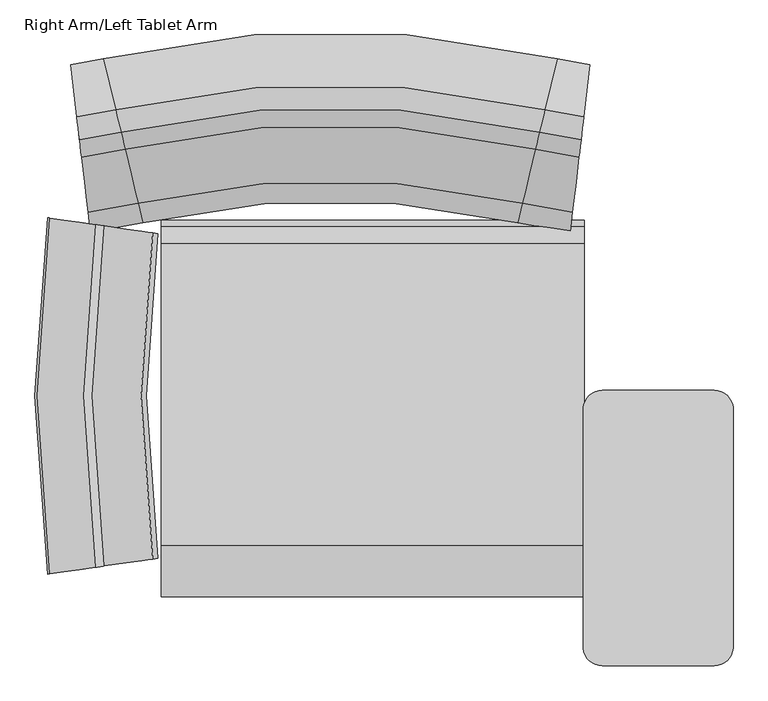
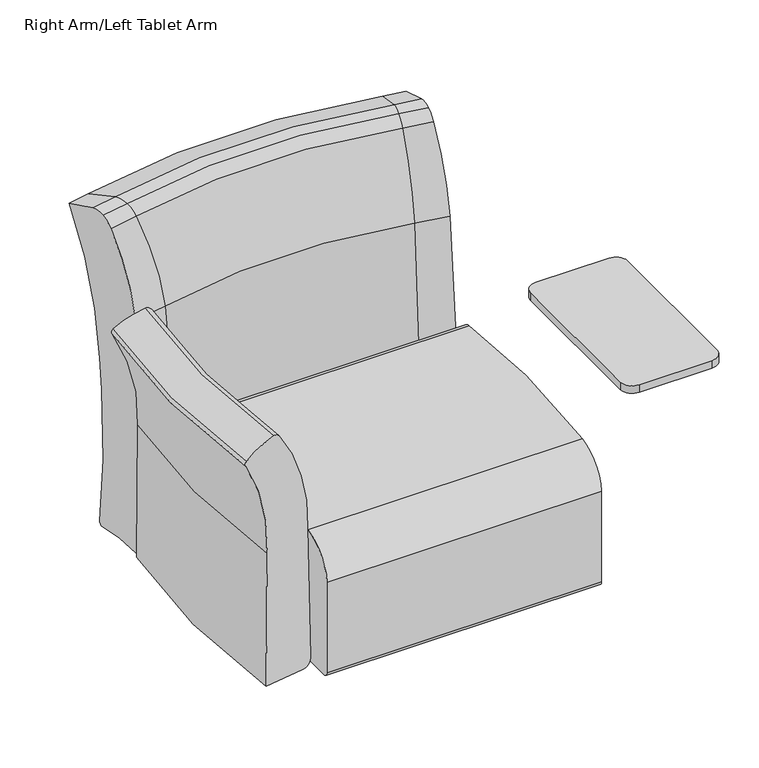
"""IFC4 building model written with IfcOpenShell, lengths in millimetres: furniture geometry, Steelcase Turnstone - Jenny - Seating - Lounge Chair : Right Arm/Left Tablet Arm."""

from ifc_helpers import new_model, si_unit, point, frame, frame_2d, origin, place, context, project, spatial, polyline, circle_curve, ellipse_curve, trimmed, segment, composite_curve, outline, extrude, source, transform, mapped, element, save
from ifc_brep_helpers import plane_surface, cylinder_surface, revolved_surface, advanced_brep


def right_arm_left_tablet_arm_c27d1c7f(model_context):
    return source(origin(), model_context, "Body", "SolidModel", [
        advanced_brep(
        [(598.9170505, 297.2446472, 612.9965223), (437.5359646, 297.2446472, 612.9965223), (410.2823568, 271.9208046, 612.9965223), (410.2823568, -74.3072853, 612.9965223), (437.5359646, -99.6305466, 612.9965223), (598.9170505, -99.6305466, 612.9965223), (626.1706583, -74.3072853, 612.9965223), (626.1763138, 271.8444534, 612.9965223), (598.9170505, 297.2440659, 595.5042034), (626.1706583, 271.9208046, 595.5042034), (626.1706583, -74.3072853, 595.5042034), (598.9170505, -99.6305466, 595.5042034), (437.5359646, -99.6305466, 595.5042034), (410.2823568, -74.3072853, 595.5042034), (410.2767014, 271.8444534, 595.5042034), (437.5359646, 297.2440659, 595.5042034)],
        [
            (0, 1),
            (1, 2, circle_curve(frame((437.5359646, 269.9168846, 612.9965223), z_axis=(0.0, 0.0, 1.0), x_axis=(0.0, 1.0, 0.0)), 27.3271812)),
            (2, 3, circle_curve(frame((2764.6629546, 98.8070503, 612.9965223), z_axis=(0.0, 0.0, 1.0), x_axis=(0.0, 1.0, 0.0)), 2360.736447)),
            (3, 4, circle_curve(frame((437.5359646, -72.3033653, 612.9965223), z_axis=(0.0, 0.0, 1.0), x_axis=(0.0, 1.0, 0.0)), 27.3271812)),
            (4, 5),
            (5, 6, circle_curve(frame((598.9170505, -72.3033653, 612.9965223), z_axis=(0.0, 0.0, 1.0), x_axis=(0.0, 1.0, 0.0)), 27.3271812)),
            (6, 7, circle_curve(frame((-1728.2099394, 98.8070503, 612.9965223), z_axis=(0.0, 0.0, 1.0), x_axis=(0.0, 1.0, 0.0)), 2360.736447)),
            (7, 0, circle_curve(frame((598.9170505, 269.9168846, 612.9965223), z_axis=(0.0, 0.0, 1.0), x_axis=(0.0, 1.0, 0.0)), 27.3271812)),
            (8, 9, circle_curve(frame((598.9170505, 269.9168846, 595.5042034), z_axis=(0.0, 0.0, -1.0), x_axis=(0.0, 1.0, 0.0)), 27.3271812)),
            (9, 10, circle_curve(frame((-1728.2099394, 98.8070503, 595.5042034), z_axis=(0.0, 0.0, -1.0), x_axis=(0.0, 1.0, 0.0)), 2360.736447)),
            (10, 11, circle_curve(frame((598.9170505, -72.3033653, 595.5042034), z_axis=(0.0, 0.0, -1.0), x_axis=(0.0, 1.0, 0.0)), 27.3271812)),
            (11, 12),
            (12, 13, circle_curve(frame((437.5359646, -72.3033653, 595.5042034), z_axis=(0.0, 0.0, -1.0), x_axis=(0.0, 1.0, 0.0)), 27.3271812)),
            (13, 14, circle_curve(frame((2764.6629546, 98.8070503, 595.5042034), z_axis=(0.0, 0.0, -1.0), x_axis=(0.0, 1.0, 0.0)), 2360.736447)),
            (14, 15, circle_curve(frame((437.5359646, 269.9168846, 595.5042034), z_axis=(0.0, 0.0, -1.0), x_axis=(0.0, 1.0, 0.0)), 27.3271812)),
            (15, 8),
            (0, 8),
            (15, 1),
            (14, 2),
            (13, 3),
            (12, 4),
            (11, 5),
            (10, 6),
            (9, 7),
        ],
        [
            plane_surface(frame((437.5359646, 297.2446472, 612.9965223), z_axis=(0.0, 0.0, 1.0), x_axis=(-1.0, 0.0, 0.0))),
            plane_surface(frame((437.5359646, 297.2446472, 595.5042034), z_axis=(0.0, 0.0, -1.0), x_axis=(1.0, 0.0, 0.0))),
            plane_surface(frame((598.9170505, 297.2446472, 612.9965223), z_axis=(0.0, 1.0, 0.0), x_axis=(0.0, 0.0, -1.0))),
            cylinder_surface(frame((437.5359646, 269.9168846, 595.5042034), z_axis=(0.0, 0.0, 1.0), x_axis=(0.0, 1.0, 0.0)), 27.3271812),
            cylinder_surface(frame((2764.6629546, 98.8070503, 595.5042034), z_axis=(0.0, 0.0, 1.0), x_axis=(0.0, 1.0, 0.0)), 2360.736447),
            cylinder_surface(frame((437.5359646, -72.3033653, 595.5042034), z_axis=(0.0, 0.0, 1.0), x_axis=(0.0, 1.0, 0.0)), 27.3271812),
            plane_surface(frame((437.5359646, -99.6305466, 612.9965223), z_axis=(0.0, -1.0, 0.0), x_axis=(0.0, 0.0, -1.0))),
            cylinder_surface(frame((598.9170505, -72.3033653, 595.5042034), z_axis=(0.0, 0.0, 1.0), x_axis=(0.0, 1.0, 0.0)), 27.3271812),
            cylinder_surface(frame((-1728.2099394, 98.8070503, 595.5042034), z_axis=(0.0, 0.0, 1.0), x_axis=(0.0, 1.0, 0.0)), 2360.736447),
            cylinder_surface(frame((598.9170505, 269.9168846, 595.5042034), z_axis=(0.0, 0.0, 1.0), x_axis=(0.0, 1.0, 0.0)), 27.3271812),
        ],
        [
            (0, [[1, 2, 3, 4, 5, 6, 7, 8]]),
            (1, [[9, 10, 11, 12, 13, 14, 15, 16]]),
            (2, [[-1, 17, -16, 18]]),
            (3, [[-2, -18, -15, 19]]),
            (4, [[-3, -19, -14, 20]]),
            (5, [[-4, -20, -13, 21]]),
            (6, [[-5, -21, -12, 22]]),
            (7, [[-6, -22, -11, 23]]),
            (8, [[-7, -23, -10, 24]]),
            (9, [[-8, -24, -9, -17]]),
        ],
    ),
        extrude(outline(polyline([(418.7902751, 106.7260437), (418.7902751, 233.7264313), (532.2244904, 233.7264313), (532.2244904, 106.7260437), (418.7902751, 106.7260437)])), frame((0.0, 0.0, 592.311266), z_axis=(0.0, 0.0, 1.0), x_axis=(1.0, 0.0, 0.0)), (0.0, 0.0, 1.0), 3.1929374),
        advanced_brep(
        [(-292.7898126, 42.3528445, 662.4789574), (-358.2713356, 32.9674199, 631.6323761), (-360.5690311, 32.6380926, 620.5062548), (-308.2034318, 40.1436204, 393.5179242), (-310.4441561, 39.8224588, 83.0261095), (-223.20915, 52.3257962, 83.0261095), (-202.848241, 55.2441122, 105.3934367), (-210.1779101, 54.1935554, 412.3486316), (-279.7619287, 44.2201227, 657.247673), (-292.7898126, 536.0945997, 662.4789574), (-279.7619287, 534.2273214, 657.247673), (-210.1779101, 524.2538887, 412.3486316), (-202.848241, 523.203332, 105.3934367), (-223.20915, 526.121648, 83.0261095), (-310.4441561, 538.6249854, 83.0261095), (-308.2034318, 538.3038238, 393.5179242), (-360.5690311, 545.8093515, 620.5062548), (-358.2713356, 545.4800243, 631.6323761)],
        [
            (0, 1, circle_curve(frame((-256.1943064, 47.5980549, 496.8440116), z_axis=(0.1418794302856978, -0.9898839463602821, 0.0), x_axis=(-0.9898839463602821, -0.1418794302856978, 0.0)), 169.710573)),
            (1, 2, circle_curve(frame((-353.0400293, 33.7172196, 624.7246592), z_axis=(0.1418794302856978, -0.9898839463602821, 0.0), x_axis=(-0.9898839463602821, -0.1418794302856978, 0.0)), 8.6974317)),
            (2, 3, circle_curve(frame((-728.9183733, -20.157182, 414.1247817), z_axis=(-0.1418794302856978, 0.9898839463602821, 0.0), x_axis=(-0.9898839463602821, -0.1418794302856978, 0.0)), 425.5136794)),
            (3, 4, circle_curve(frame((3422.4667903, 574.8581873, 210.7875713), z_axis=(0.1418794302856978, -0.9898839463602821, 0.0), x_axis=(-0.9898839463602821, -0.1418794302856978, 0.0)), 3773.2228077)),
            (4, 5),
            (5, 6, circle_curve(frame((-223.20915, 52.3257962, 103.6673891), z_axis=(0.1418794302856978, -0.9898839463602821, 0.0), x_axis=(-0.9898839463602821, -0.1418794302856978, 0.0)), 20.6412796)),
            (6, 7, circle_curve(frame((2339.505101, 419.6379839, 320.9153954), z_axis=(-0.1418794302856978, 0.9898839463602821, 0.0), x_axis=(-0.9898839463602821, -0.1418794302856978, 0.0)), 2577.3616595)),
            (7, 8, circle_curve(frame((-616.9474144, -4.1084564, 426.9356418), z_axis=(0.1418794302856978, -0.9898839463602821, 0.0), x_axis=(-0.9898839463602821, -0.1418794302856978, 0.0)), 411.1852807)),
            (8, 0, circle_curve(frame((-290.0772968, 42.7416276, 650.2018378), z_axis=(0.1418794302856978, -0.9898839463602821, 0.0), x_axis=(-0.9898839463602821, -0.1418794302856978, 0.0)), 12.5792115)),
            (9, 10, circle_curve(frame((-290.0772968, 535.7058165, 650.2018378), z_axis=(0.1418794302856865, 0.9898839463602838, 0.0), x_axis=(-0.9898839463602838, 0.1418794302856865, 0.0)), 12.5792115)),
            (10, 11, circle_curve(frame((-616.9474144, 582.5559005, 426.9356418), z_axis=(0.1418794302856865, 0.9898839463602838, 0.0), x_axis=(-0.9898839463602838, 0.1418794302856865, 0.0)), 411.1852807)),
            (11, 12, circle_curve(frame((2339.505101, 158.8094603, 320.9153954), z_axis=(-0.1418794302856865, -0.9898839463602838, 0.0), x_axis=(-0.9898839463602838, 0.1418794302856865, 0.0)), 2577.3616595)),
            (12, 13, circle_curve(frame((-223.20915, 526.121648, 103.6673891), z_axis=(0.1418794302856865, 0.9898839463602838, 0.0), x_axis=(-0.9898839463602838, 0.1418794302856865, 0.0)), 20.6412796)),
            (13, 14),
            (14, 15, circle_curve(frame((3422.4667903, 3.5892569, 210.7875713), z_axis=(0.1418794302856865, 0.9898839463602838, 0.0), x_axis=(-0.9898839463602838, 0.1418794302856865, 0.0)), 3773.2228077)),
            (15, 16, circle_curve(frame((-728.9183733, 598.6046262, 414.1247817), z_axis=(-0.1418794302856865, -0.9898839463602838, 0.0), x_axis=(-0.9898839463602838, 0.1418794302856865, 0.0)), 425.5136794)),
            (16, 17, circle_curve(frame((-353.0400293, 544.7302245, 624.7246592), z_axis=(0.1418794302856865, 0.9898839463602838, 0.0), x_axis=(-0.9898839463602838, 0.1418794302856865, 0.0)), 8.6974317)),
            (17, 9, circle_curve(frame((-256.1943064, 530.8493893, 496.8440116), z_axis=(0.1418794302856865, 0.9898839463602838, 0.0), x_axis=(-0.9898839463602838, 0.1418794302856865, 0.0)), 169.710573)),
            (17, 1, circle_curve(frame((1429.6129209, 289.2237221, 631.6323761), z_axis=(0.0, 0.0, 1.0), x_axis=(-0.9898839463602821, -0.1418794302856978, 0.0)), 1806.1554216)),
            (0, 9, circle_curve(frame((1429.6129209, 289.2237221, 662.4789574), z_axis=(0.0, 0.0, -1.0), x_axis=(-0.9898839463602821, -0.1418794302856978, 0.0)), 1740.0047145)),
            (16, 2, circle_curve(frame((1429.6129209, 289.2237221, 620.5062548), z_axis=(0.0, 0.0, 1.0), x_axis=(-0.9898839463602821, -0.1418794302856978, 0.0)), 1808.4765982)),
            (15, 3, circle_curve(frame((1429.6129209, 289.2237221, 393.5179242), z_axis=(0.0, 0.0, 1.0), x_axis=(-0.9898839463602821, -0.1418794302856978, 0.0)), 1755.5758521)),
            (14, 4, circle_curve(frame((1429.6129209, 289.2237221, 83.0261095), z_axis=(0.0, 0.0, 1.0), x_axis=(-0.9898839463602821, -0.1418794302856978, 0.0)), 1757.8394754)),
            (13, 5, circle_curve(frame((1429.6129209, 289.2237221, 83.0261095), z_axis=(0.0, 0.0, 1.0), x_axis=(-0.9898839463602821, -0.1418794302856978, 0.0)), 1669.7129769)),
            (12, 6, circle_curve(frame((1429.6129209, 289.2237221, 105.3934367), z_axis=(0.0, 0.0, 1.0), x_axis=(-0.9898839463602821, -0.1418794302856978, 0.0)), 1649.1439909)),
            (11, 7, circle_curve(frame((1429.6129209, 289.2237221, 412.3486316), z_axis=(0.0, 0.0, 1.0), x_axis=(-0.9898839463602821, -0.1418794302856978, 0.0)), 1656.5485651)),
            (10, 8, circle_curve(frame((1429.6129209, 289.2237221, 657.247673), z_axis=(0.0, 0.0, 1.0), x_axis=(-0.9898839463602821, -0.1418794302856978, 0.0)), 1726.8436929)),
        ],
        [
            plane_surface(frame((-276.073924, 44.7487221, 0.0), z_axis=(0.1418794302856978, -0.9898839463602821, 0.0), x_axis=(0.0, 0.0, 1.0))),
            plane_surface(frame((-276.073924, 533.6987221, 0.0), z_axis=(0.1418794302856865, 0.9898839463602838, 0.0), x_axis=(0.0, 0.0, 1.0))),
            revolved_surface(trimmed(ellipse_curve(frame((-256.1943064, 47.5980549, 496.8440116), z_axis=(0.1418794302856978, -0.9898839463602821, 0.0), x_axis=(-0.9898839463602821, -0.1418794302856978, 0.0)), 169.710573, 169.710573), [point((-292.7898126, 42.3528445, 662.4789574))], [point((-358.2713356, 32.9674199, 631.6323761))], True, "CARTESIAN"), (1429.6129209, 289.2237221, 0.0), (0.0, 0.0, -1.0)),
            revolved_surface(trimmed(ellipse_curve(frame((-353.0400293, 33.7172196, 624.7246592), z_axis=(0.1418794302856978, -0.9898839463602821, 0.0), x_axis=(-0.9898839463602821, -0.1418794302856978, 0.0)), 8.6974317, 8.6974317), [point((-358.2713356, 32.9674199, 631.6323761))], [point((-360.5690311, 32.6380926, 620.5062548))], True, "CARTESIAN"), (1429.6129209, 289.2237221, 0.0), (0.0, 0.0, -1.0)),
            revolved_surface(trimmed(ellipse_curve(frame((-728.9183733, -20.157182, 414.1247817), z_axis=(-0.1418794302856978, 0.9898839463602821, 0.0), x_axis=(-0.9898839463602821, -0.1418794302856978, 0.0)), 425.5136794, 425.5136794), [point((-360.5690311, 32.6380926, 620.5062548))], [point((-308.2034318, 40.1436204, 393.5179242))], True, "CARTESIAN"), (1429.6129209, 289.2237221, 0.0), (0.0, 0.0, -1.0)),
            revolved_surface(trimmed(ellipse_curve(frame((3422.4667903, 574.8581873, 210.7875713), z_axis=(0.1418794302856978, -0.9898839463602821, 0.0), x_axis=(-0.9898839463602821, -0.1418794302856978, 0.0)), 3773.2228077, 3773.2228077), [point((-308.2034318, 40.1436204, 393.5179242))], [point((-310.4441561, 39.8224588, 83.0261095))], True, "CARTESIAN"), (1429.6129209, 289.2237221, 0.0), (0.0, 0.0, -1.0)),
            plane_surface(frame((1429.6129209, 289.2237221, 83.0261095), z_axis=(0.0, 0.0, -1.0), x_axis=(-0.9898839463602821, -0.1418794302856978, 0.0))),
            revolved_surface(trimmed(ellipse_curve(frame((-223.20915, 52.3257962, 103.6673891), z_axis=(0.1418794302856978, -0.9898839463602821, 0.0), x_axis=(-0.9898839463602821, -0.1418794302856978, 0.0)), 20.6412796, 20.6412796), [point((-223.20915, 52.3257962, 83.0261095))], [point((-202.848241, 55.2441122, 105.3934367))], True, "CARTESIAN"), (1429.6129209, 289.2237221, 0.0), (0.0, 0.0, -1.0)),
            revolved_surface(trimmed(ellipse_curve(frame((2339.505101, 419.6379839, 320.9153954), z_axis=(-0.1418794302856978, 0.9898839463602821, 0.0), x_axis=(-0.9898839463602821, -0.1418794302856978, 0.0)), 2577.3616595, 2577.3616595), [point((-202.848241, 55.2441122, 105.3934367))], [point((-210.1779101, 54.1935554, 412.3486316))], True, "CARTESIAN"), (1429.6129209, 289.2237221, 0.0), (0.0, 0.0, -1.0)),
            revolved_surface(trimmed(ellipse_curve(frame((-616.9474144, -4.1084564, 426.9356418), z_axis=(0.1418794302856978, -0.9898839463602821, 0.0), x_axis=(-0.9898839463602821, -0.1418794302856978, 0.0)), 411.1852807, 411.1852807), [point((-210.1779101, 54.1935554, 412.3486316))], [point((-279.7619287, 44.2201227, 657.247673))], True, "CARTESIAN"), (1429.6129209, 289.2237221, 0.0), (0.0, 0.0, -1.0)),
            revolved_surface(trimmed(ellipse_curve(frame((-290.0772968, 42.7416276, 650.2018378), z_axis=(0.1418794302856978, -0.9898839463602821, 0.0), x_axis=(-0.9898839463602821, -0.1418794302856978, 0.0)), 12.5792115, 12.5792115), [point((-279.7619287, 44.2201227, 657.247673))], [point((-292.7898126, 42.3528445, 662.4789574))], True, "CARTESIAN"), (1429.6129209, 289.2237221, 0.0), (0.0, 0.0, -1.0)),
        ],
        [
            (0, [[1, 2, 3, 4, 5, 6, 7, 8, 9]]),
            (1, [[10, 11, 12, 13, 14, 15, 16, 17, 18]]),
            (2, [[19, -1, 20, -18]]),
            (3, [[21, -2, -19, -17]]),
            (4, [[22, -3, -21, -16]]),
            (5, [[23, -4, -22, -15]]),
            (6, [[24, -5, -23, -14]]),
            (7, [[25, -6, -24, -13]]),
            (8, [[26, -7, -25, -12]]),
            (9, [[27, -8, -26, -11]]),
            (10, [[-20, -9, -27, -10]]),
        ],
    ),
        extrude(outline(composite_curve([segment(trimmed(circle_curve(frame_2d((295.9448235, -1001.9734672)), 1409.8455938), [point((73.6948235, 390.2440215))], [point((509.3958902, 391.6201753))], False, "CARTESIAN"), True, "CONTINUOUS"), segment(trimmed(circle_curve(frame_2d((504.9855283, 362.825509)), 29.1304669), [point((509.3958902, 391.6201753))], [point((533.8942756, 366.4127691))], False, "CARTESIAN"), True, "CONTINUOUS"), segment(trimmed(circle_curve(frame_2d((-629.8512072, 222.0046519)), 1172.6709909), [point((533.8942756, 366.4127691))], [point((536.0042378, 95.7575362))], False, "CARTESIAN"), True, "CONTINUOUS"), segment(trimmed(circle_curve(frame_2d((523.173628, 97.1469259)), 12.9056171), [point((536.0042378, 95.7575362))], [point((523.4804674, 84.244957))], False, "CARTESIAN"), True, "CONTINUOUS"), segment(trimmed(circle_curve(frame_2d((320.8347088, 8605.0850806)), 8523.249481), [point((523.4804674, 84.244957))], [point((12.6556229, 87.4089088))], False, "CARTESIAN"), True, "CONTINUOUS"), segment(trimmed(circle_curve(frame_2d((13.132469, 100.5883266)), 13.1880413), [point((12.6556229, 87.4089088))], [point((0.0, 99.3789084))], False, "CARTESIAN"), True, "CONTINUOUS"), segment(trimmed(circle_curve(frame_2d((1151.5533041, 205.4297595)), 1156.4263034), [point((0.0, 99.3789084))], [point((0.0, 311.4806107))], False, "CARTESIAN"), True, "CONTINUOUS"), segment(trimmed(circle_curve(frame_2d((87.555619, 303.4172862)), 87.9261259), [point((0.0, 311.4806107))], [point((73.6948235, 390.2440215))], False, "CARTESIAN"), True, "CONTINUOUS")], self_intersect=False)), frame((-198.12, 0.0, 0.0), z_axis=(1.0, 0.0, 0.0), x_axis=(0.0, 1.0, 0.0)), (0.0, 0.0, 1.0), 609.6),
        advanced_brep(
        [(-319.566616, 691.4565759, 813.9027777), (-328.4381434, 766.5452606, 782.2939395), (-316.928411, 669.1267858, 474.5451921), (-316.2334589, 663.244705, 404.1661408), (-315.6570167, 658.3656933, 241.4197302), (-316.8946384, 668.8409343, 92.210125), (-315.6754165, 658.5214293, 82.3084573), (-303.2809614, 553.6146536, 81.9987921), (-300.9802803, 534.1416683, 97.0710008), (-303.2942051, 553.7267481, 627.8736036), (-312.6808193, 633.1751322, 797.7221008), (-315.6530638, 658.3322355, 814.4538477), (-281.2467617, 774.979302, 782.2939395), (-263.5601577, 701.4660474, 813.9027777), (-258.300535, 679.604757, 474.5451921), (-256.9150528, 673.8460877, 404.1661408), (-255.7658364, 669.0694421, 241.4197302), (-258.2332047, 679.3249029, 92.210125), (-255.8025189, 669.2219106, 82.3084573), (-231.0924763, 566.5161761, 81.9987921), (-226.5057535, 547.451752, 97.0710008), (-231.1188793, 566.6259188, 627.8736036), (-249.8323794, 644.4074023, 797.7221008), (-255.7579556, 669.0366863, 814.4538477), (372.6867617, 774.979302, 782.2939395), (355.0001577, 701.4660474, 813.9027777), (349.740535, 679.604757, 474.5451921), (348.3550528, 673.8460877, 404.1661408), (347.2058364, 669.0694421, 241.4197302), (349.6732047, 679.3249029, 92.210125), (347.2425189, 669.2219106, 82.3084573), (322.5324763, 566.5161761, 81.9987921), (317.9457535, 547.451752, 97.0710008), (322.5588793, 566.6259188, 627.8736036), (341.2723794, 644.4074023, 797.7221008), (347.1979556, 669.0366863, 814.4538477), (411.006616, 691.4565759, 813.9027777), (407.0930638, 658.3322355, 814.4538477), (404.1208193, 633.1751322, 797.7221008), (394.7342051, 553.7267481, 627.8736036), (392.4202803, 534.1416683, 97.0710008), (394.7209614, 553.6146536, 81.9987921), (407.1154165, 658.5214293, 82.3084573), (408.3346384, 668.8409343, 92.210125), (407.0970167, 658.3656933, 241.4197302), (407.6734589, 663.244705, 404.1661408), (408.368411, 669.1267858, 474.5451921), (419.8781434, 766.5452606, 782.2939395)],
        [
            (0, 1, circle_curve(frame((-295.4061096, 486.9618391, 215.0940543), z_axis=(-0.9930928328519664, -0.11733126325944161, 0.0), x_axis=(-0.11733126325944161, 0.9930928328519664, 0.0)), 633.2248531)),
            (1, 2, circle_curve(frame((-396.2289126, 1340.3269208, 428.618251), z_axis=(0.9930928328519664, 0.11733126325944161, 0.0), x_axis=(-0.11733126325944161, 0.9930928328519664, 0.0)), 677.4270991)),
            (2, 3, circle_curve(frame((-60.3516484, -1502.5411649, 623.1418041), z_axis=(-0.9930928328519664, -0.11733126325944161, 0.0), x_axis=(-0.11733126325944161, 0.9930928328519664, 0.0)), 2191.8152925)),
            (3, 4, circle_curve(frame((-452.3232857, 1815.1101831, 287.7047166), z_axis=(0.9930928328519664, 0.11733126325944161, 0.0), x_axis=(-0.11733126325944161, 0.9930928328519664, 0.0)), 1165.7091335)),
            (4, 5, circle_curve(frame((-599.8381159, 3063.6769889, 337.6638027), z_axis=(0.9930928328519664, 0.11733126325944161, 0.0), x_axis=(-0.11733126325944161, 0.9930928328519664, 0.0)), 2423.9521958)),
            (5, 6, circle_curve(frame((-315.8343466, 659.8666153, 91.290321), z_axis=(-0.9930928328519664, -0.11733126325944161, 0.0), x_axis=(-0.11733126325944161, 0.9930928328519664, 0.0)), 9.0834278)),
            (6, 7, circle_curve(frame((-309.5963018, 607.0677497, -261.2499371), z_axis=(0.9930928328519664, 0.11733126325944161, 0.0), x_axis=(-0.11733126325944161, 0.9930928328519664, 0.0)), 347.443243)),
            (7, 8, circle_curve(frame((-302.9708883, 550.9901919, 98.8517567), z_axis=(-0.9930928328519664, -0.11733126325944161, 0.0), x_axis=(-0.11733126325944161, 0.9930928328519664, 0.0)), 17.0589085)),
            (8, 9, circle_curve(frame((-520.3989152, 2391.3029031, 293.3582769), z_axis=(-0.9930928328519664, -0.11733126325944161, 0.0), x_axis=(-0.11733126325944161, 0.9930928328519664, 0.0)), 1880.3513194)),
            (9, 10, circle_curve(frame((-345.2433635, 908.7847898, 563.2382651), z_axis=(-0.9930928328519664, -0.11733126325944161, 0.0), x_axis=(-0.11733126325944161, 0.9930928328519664, 0.0)), 363.3230957)),
            (10, 11, circle_curve(frame((-317.5105214, 674.0537729, 762.9432742), z_axis=(-0.9930928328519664, -0.11733126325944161, 0.0), x_axis=(-0.11733126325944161, 0.9930928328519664, 0.0)), 53.8883667)),
            (11, 0, circle_curve(frame((-317.5105214, 674.0537729, 762.9432742), z_axis=(-0.9930928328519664, -0.11733126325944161, 0.0), x_axis=(-0.11733126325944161, 0.9930928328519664, 0.0)), 53.8883667)),
            (12, 1, circle_curve(frame((-375.9317332, 1168.5314176, 782.2939395), z_axis=(0.0, 0.0, -1.0), x_axis=(0.1173312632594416, -0.9930928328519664, 0.0)), 404.7820543)),
            (0, 13, circle_curve(frame((-375.9317332, 1168.5314176, 813.9027777), z_axis=(0.0, 0.0, 1.0), x_axis=(0.1173312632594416, -0.9930928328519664, 0.0)), 480.3929964)),
            (13, 12, circle_curve(frame((-215.3928813, 501.2617994, 215.0940543), z_axis=(-0.9722568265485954, -0.23391593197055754, 0.0), x_axis=(-0.23391593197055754, 0.9722568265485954, 0.0)), 633.2248531)),
            (14, 2, circle_curve(frame((-375.9317332, 1168.5314176, 474.5451921), z_axis=(0.0, 0.0, -1.0), x_axis=(0.1173312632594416, -0.9930928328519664, 0.0)), 502.8780948)),
            (12, 14, circle_curve(frame((-416.3969383, 1336.7224922, 428.618251), z_axis=(0.9722568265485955, 0.2339159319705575, 0.0), x_axis=(-0.2339159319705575, 0.9722568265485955, 0.0)), 677.4270991)),
            (15, 3, circle_curve(frame((-375.9317332, 1168.5314176, 404.1661408), z_axis=(0.0, 0.0, -1.0), x_axis=(0.1173312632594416, -0.9930928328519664, 0.0)), 508.8010867)),
            (14, 15, circle_curve(frame((253.220358, -1446.4995912, 623.1418041), z_axis=(-0.9722568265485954, -0.2339159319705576, 0.0), x_axis=(-0.2339159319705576, 0.9722568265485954, 0.0)), 2191.8152925)),
            (16, 4, circle_curve(frame((-375.9317332, 1168.5314176, 241.4197302), z_axis=(0.0, 0.0, -1.0), x_axis=(0.1173312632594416, -0.9930928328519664, 0.0)), 513.714033)),
            (15, 16, circle_curve(frame((-528.2287486, 1801.5443625, 287.7047166), z_axis=(0.9722568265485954, 0.23391593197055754, 0.0), x_axis=(-0.23391593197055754, 0.9722568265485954, 0.0)), 1165.7091335)),
            (17, 5, circle_curve(frame((-375.9317332, 1168.5314176, 92.210125), z_axis=(0.0, 0.0, -1.0), x_axis=(0.1173312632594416, -0.9930928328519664, 0.0)), 503.1659344)),
            (16, 17, circle_curve(frame((-822.3197524, 3023.9150817, 337.6638027), z_axis=(0.9722568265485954, 0.23391593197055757, 0.0), x_axis=(-0.23391593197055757, 0.9722568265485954, 0.0)), 2423.9521958)),
            (18, 6, circle_curve(frame((-375.9317332, 1168.5314176, 82.3084573), z_axis=(0.0, 0.0, -1.0), x_axis=(0.1173312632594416, -0.9930928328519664, 0.0)), 513.5572138)),
            (17, 18, circle_curve(frame((-256.1193678, 670.5388734, 91.290321), z_axis=(-0.9722568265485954, -0.23391593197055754, 0.0), x_axis=(-0.23391593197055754, 0.9722568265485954, 0.0)), 9.0834278)),
            (19, 7, circle_curve(frame((-375.9317332, 1168.5314176, 81.9987921), z_axis=(0.0, 0.0, -1.0), x_axis=(0.1173312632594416, -0.9930928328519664, 0.0)), 619.193638)),
            (18, 19, circle_curve(frame((-243.6829717, 618.8477768, -261.2499371), z_axis=(0.9722568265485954, 0.23391593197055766, 0.0), x_axis=(-0.23391593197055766, 0.9722568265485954, 0.0)), 347.443243)),
            (20, 8, circle_curve(frame((-375.9317332, 1168.5314176, 97.0710008), z_axis=(0.0, 0.0, -1.0), x_axis=(0.1173312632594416, -0.9930928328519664, 0.0)), 638.8020619)),
            (19, 20, circle_curve(frame((-230.474303, 563.9467781, 98.8517567), z_axis=(-0.9722568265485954, -0.23391593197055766, 0.0), x_axis=(-0.23391593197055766, 0.9722568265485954, 0.0)), 17.0589085)),
            (21, 9, circle_curve(frame((-375.9317332, 1168.5314176, 627.8736036), z_axis=(0.0, 0.0, -1.0), x_axis=(0.1173312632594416, -0.9930928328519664, 0.0)), 619.0807637)),
            (20, 21, circle_curve(frame((-663.9468332, 2365.6480262, 293.3582769), z_axis=(-0.9722568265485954, -0.2339159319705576, 0.0), x_axis=(-0.2339159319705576, 0.9722568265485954, 0.0)), 1880.3513194)),
            (22, 10, circle_curve(frame((-375.9317332, 1168.5314176, 797.7221008), z_axis=(0.0, 0.0, -1.0), x_axis=(0.1173312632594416, -0.9930928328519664, 0.0)), 539.0797997)),
            (21, 22, circle_curve(frame((-314.7502681, 914.2345144, 563.2382651), z_axis=(-0.9722568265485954, -0.23391593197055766, 0.0), x_axis=(-0.23391593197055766, 0.9722568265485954, 0.0)), 363.3230957)),
            (23, 11, circle_curve(frame((-375.9317332, 1168.5314176, 814.4538477), z_axis=(0.0, 0.0, -1.0), x_axis=(0.1173312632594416, -0.9930928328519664, 0.0)), 513.7477235)),
            (22, 23, circle_curve(frame((-259.4610516, 684.4283713, 762.9432742), z_axis=(-0.9722568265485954, -0.23391593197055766, 0.0), x_axis=(-0.23391593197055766, 0.9722568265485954, 0.0)), 53.8883667)),
            (23, 13, circle_curve(frame((-259.4610516, 684.4283713, 762.9432742), z_axis=(-0.9722568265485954, -0.23391593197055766, 0.0), x_axis=(-0.23391593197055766, 0.9722568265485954, 0.0)), 53.8883667)),
            (24, 12, circle_curve(frame((45.72, -584.0374329, 782.2939395), z_axis=(0.0, 0.0, 1.0), x_axis=(-0.23391593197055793, 0.9722568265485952, 0.0)), 1397.7960327)),
            (13, 25, circle_curve(frame((45.72, -584.0374329, 813.9027777), z_axis=(0.0, 0.0, -1.0), x_axis=(-0.23391593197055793, 0.9722568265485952, 0.0)), 1322.1850906)),
            (25, 24, circle_curve(frame((306.8328813, 501.2617994, 215.0940543), z_axis=(-0.972256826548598, 0.23391593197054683, 0.0), x_axis=(0.23391593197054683, 0.972256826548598, 0.0)), 633.2248531)),
            (26, 14, circle_curve(frame((45.72, -584.0374329, 474.5451921), z_axis=(0.0, 0.0, 1.0), x_axis=(-0.23391593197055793, 0.9722568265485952, 0.0)), 1299.6999922)),
            (24, 26, circle_curve(frame((507.8369383, 1336.7224922, 428.618251), z_axis=(0.9722568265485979, -0.23391593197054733, 0.0), x_axis=(0.23391593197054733, 0.9722568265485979, 0.0)), 677.4270991)),
            (27, 15, circle_curve(frame((45.72, -584.0374329, 404.1661408), z_axis=(0.0, 0.0, 1.0), x_axis=(-0.23391593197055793, 0.9722568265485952, 0.0)), 1293.7770003)),
            (26, 27, circle_curve(frame((-161.780358, -1446.4995912, 623.1418041), z_axis=(-0.9722568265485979, 0.23391593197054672, 0.0), x_axis=(0.23391593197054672, 0.9722568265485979, 0.0)), 2191.8152925)),
            (28, 16, circle_curve(frame((45.72, -584.0374329, 241.4197302), z_axis=(0.0, 0.0, 1.0), x_axis=(-0.23391593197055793, 0.9722568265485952, 0.0)), 1288.864054)),
            (27, 28, circle_curve(frame((619.6687486, 1801.5443625, 287.7047166), z_axis=(0.972256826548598, -0.23391593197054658, 0.0), x_axis=(0.23391593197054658, 0.972256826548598, 0.0)), 1165.7091335)),
            (29, 17, circle_curve(frame((45.72, -584.0374329, 92.210125), z_axis=(0.0, 0.0, 1.0), x_axis=(-0.23391593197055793, 0.9722568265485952, 0.0)), 1299.4121525)),
            (28, 29, circle_curve(frame((913.7597524, 3023.9150817, 337.6638027), z_axis=(0.9722568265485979, -0.23391593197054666, 0.0), x_axis=(0.23391593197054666, 0.9722568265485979, 0.0)), 2423.9521958)),
            (30, 18, circle_curve(frame((45.72, -584.0374329, 82.3084573), z_axis=(0.0, 0.0, 1.0), x_axis=(-0.23391593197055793, 0.9722568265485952, 0.0)), 1289.0208732)),
            (29, 30, circle_curve(frame((347.5593678, 670.5388734, 91.290321), z_axis=(-0.9722568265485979, 0.23391593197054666, 0.0), x_axis=(0.23391593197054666, 0.9722568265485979, 0.0)), 9.0834278)),
            (31, 19, circle_curve(frame((45.72, -584.0374329, 81.9987921), z_axis=(0.0, 0.0, 1.0), x_axis=(-0.23391593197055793, 0.9722568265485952, 0.0)), 1183.384449)),
            (30, 31, circle_curve(frame((335.1229717, 618.8477768, -261.2499371), z_axis=(0.972256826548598, -0.23391593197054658, 0.0), x_axis=(0.23391593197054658, 0.972256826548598, 0.0)), 347.443243)),
            (32, 20, circle_curve(frame((45.72, -584.0374329, 97.0710008), z_axis=(0.0, 0.0, 1.0), x_axis=(-0.23391593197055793, 0.9722568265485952, 0.0)), 1163.776025)),
            (31, 32, circle_curve(frame((321.914303, 563.9467781, 98.8517567), z_axis=(-0.9722568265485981, 0.23391593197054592, 0.0), x_axis=(0.23391593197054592, 0.9722568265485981, 0.0)), 17.0589085)),
            (33, 21, circle_curve(frame((45.72, -584.0374329, 627.8736036), z_axis=(0.0, 0.0, 1.0), x_axis=(-0.23391593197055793, 0.9722568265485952, 0.0)), 1183.4973232)),
            (32, 33, circle_curve(frame((755.3868332, 2365.6480262, 293.3582769), z_axis=(-0.9722568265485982, 0.23391593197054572, 0.0), x_axis=(0.23391593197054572, 0.9722568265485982, 0.0)), 1880.3513194)),
            (34, 22, circle_curve(frame((45.72, -584.0374329, 797.7221008), z_axis=(0.0, 0.0, 1.0), x_axis=(-0.23391593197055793, 0.9722568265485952, 0.0)), 1263.4982873)),
            (33, 34, circle_curve(frame((406.1902681, 914.2345144, 563.2382651), z_axis=(-0.9722568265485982, 0.23391593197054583, 0.0), x_axis=(0.23391593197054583, 0.9722568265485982, 0.0)), 363.3230957)),
            (35, 23, circle_curve(frame((45.72, -584.0374329, 814.4538477), z_axis=(0.0, 0.0, 1.0), x_axis=(-0.23391593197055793, 0.9722568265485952, 0.0)), 1288.8303635)),
            (34, 35, circle_curve(frame((350.9010516, 684.4283713, 762.9432742), z_axis=(-0.972256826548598, 0.23391593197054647, 0.0), x_axis=(0.23391593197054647, 0.972256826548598, 0.0)), 53.8883667)),
            (35, 25, circle_curve(frame((350.9010516, 684.4283713, 762.9432742), z_axis=(-0.972256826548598, 0.23391593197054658, 0.0), x_axis=(0.23391593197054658, 0.972256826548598, 0.0)), 53.8883667)),
            (36, 37, circle_curve(frame((408.9505214, 674.0537729, 762.9432742), z_axis=(0.9930928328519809, -0.11733126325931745, 0.0), x_axis=(0.11733126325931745, 0.9930928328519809, 0.0)), 53.8883667)),
            (37, 38, circle_curve(frame((408.9505214, 674.0537729, 762.9432742), z_axis=(0.9930928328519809, -0.11733126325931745, 0.0), x_axis=(0.11733126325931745, 0.9930928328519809, 0.0)), 53.8883667)),
            (38, 39, circle_curve(frame((436.6833635, 908.7847898, 563.2382651), z_axis=(0.9930928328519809, -0.11733126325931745, 0.0), x_axis=(0.11733126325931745, 0.9930928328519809, 0.0)), 363.3230957)),
            (39, 40, circle_curve(frame((611.8389152, 2391.3029031, 293.3582769), z_axis=(0.9930928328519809, -0.11733126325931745, 0.0), x_axis=(0.11733126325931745, 0.9930928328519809, 0.0)), 1880.3513194)),
            (40, 41, circle_curve(frame((394.4108883, 550.9901919, 98.8517567), z_axis=(0.9930928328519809, -0.11733126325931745, 0.0), x_axis=(0.11733126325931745, 0.9930928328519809, 0.0)), 17.0589085)),
            (41, 42, circle_curve(frame((401.0363018, 607.0677497, -261.2499371), z_axis=(-0.9930928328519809, 0.11733126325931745, 0.0), x_axis=(0.11733126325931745, 0.9930928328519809, 0.0)), 347.443243)),
            (42, 43, circle_curve(frame((407.2743466, 659.8666153, 91.290321), z_axis=(0.9930928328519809, -0.11733126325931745, 0.0), x_axis=(0.11733126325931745, 0.9930928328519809, 0.0)), 9.0834278)),
            (43, 44, circle_curve(frame((691.2781159, 3063.6769889, 337.6638027), z_axis=(-0.9930928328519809, 0.11733126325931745, 0.0), x_axis=(0.11733126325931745, 0.9930928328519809, 0.0)), 2423.9521958)),
            (44, 45, circle_curve(frame((543.7632857, 1815.1101831, 287.7047166), z_axis=(-0.9930928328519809, 0.11733126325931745, 0.0), x_axis=(0.11733126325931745, 0.9930928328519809, 0.0)), 1165.7091335)),
            (45, 46, circle_curve(frame((151.7916484, -1502.5411649, 623.1418041), z_axis=(0.9930928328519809, -0.11733126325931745, 0.0), x_axis=(0.11733126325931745, 0.9930928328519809, 0.0)), 2191.8152925)),
            (46, 47, circle_curve(frame((487.6689126, 1340.3269208, 428.618251), z_axis=(-0.9930928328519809, 0.11733126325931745, 0.0), x_axis=(0.11733126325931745, 0.9930928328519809, 0.0)), 677.4270991)),
            (47, 36, circle_curve(frame((386.8461096, 486.9618391, 215.0940543), z_axis=(0.9930928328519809, -0.11733126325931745, 0.0), x_axis=(0.11733126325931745, 0.9930928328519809, 0.0)), 633.2248531)),
            (47, 24, circle_curve(frame((467.3717332, 1168.5314176, 782.2939395), z_axis=(0.0, 0.0, -1.0), x_axis=(-0.2339159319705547, -0.972256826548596, 0.0)), 404.7820543)),
            (25, 36, circle_curve(frame((467.3717332, 1168.5314176, 813.9027777), z_axis=(0.0, 0.0, 1.0), x_axis=(-0.2339159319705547, -0.972256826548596, 0.0)), 480.3929964)),
            (46, 26, circle_curve(frame((467.3717332, 1168.5314176, 474.5451921), z_axis=(0.0, 0.0, -1.0), x_axis=(-0.2339159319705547, -0.972256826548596, 0.0)), 502.8780948)),
            (45, 27, circle_curve(frame((467.3717332, 1168.5314176, 404.1661408), z_axis=(0.0, 0.0, -1.0), x_axis=(-0.2339159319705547, -0.972256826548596, 0.0)), 508.8010867)),
            (44, 28, circle_curve(frame((467.3717332, 1168.5314176, 241.4197302), z_axis=(0.0, 0.0, -1.0), x_axis=(-0.2339159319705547, -0.972256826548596, 0.0)), 513.714033)),
            (43, 29, circle_curve(frame((467.3717332, 1168.5314176, 92.210125), z_axis=(0.0, 0.0, -1.0), x_axis=(-0.2339159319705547, -0.972256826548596, 0.0)), 503.1659344)),
            (42, 30, circle_curve(frame((467.3717332, 1168.5314176, 82.3084573), z_axis=(0.0, 0.0, -1.0), x_axis=(-0.2339159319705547, -0.972256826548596, 0.0)), 513.5572138)),
            (41, 31, circle_curve(frame((467.3717332, 1168.5314176, 81.9987921), z_axis=(0.0, 0.0, -1.0), x_axis=(-0.2339159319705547, -0.972256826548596, 0.0)), 619.193638)),
            (40, 32, circle_curve(frame((467.3717332, 1168.5314176, 97.0710008), z_axis=(0.0, 0.0, -1.0), x_axis=(-0.2339159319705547, -0.972256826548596, 0.0)), 638.8020619)),
            (39, 33, circle_curve(frame((467.3717332, 1168.5314176, 627.8736036), z_axis=(0.0, 0.0, -1.0), x_axis=(-0.2339159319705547, -0.972256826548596, 0.0)), 619.0807637)),
            (38, 34, circle_curve(frame((467.3717332, 1168.5314176, 797.7221008), z_axis=(0.0, 0.0, -1.0), x_axis=(-0.2339159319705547, -0.972256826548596, 0.0)), 539.0797997)),
            (37, 35, circle_curve(frame((467.3717332, 1168.5314176, 814.4538477), z_axis=(0.0, 0.0, -1.0), x_axis=(-0.2339159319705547, -0.972256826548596, 0.0)), 513.7477235)),
        ],
        [
            plane_surface(frame((-309.88, 609.4689735, 0.0), z_axis=(-0.9930928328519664, -0.11733126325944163, 0.0), x_axis=(0.0, 0.0, 1.0))),
            revolved_surface(trimmed(ellipse_curve(frame((-295.4061096, 486.9618391, 215.0940543), z_axis=(-0.9930928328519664, -0.11733126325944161, 0.0), x_axis=(-0.11733126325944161, 0.9930928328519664, 0.0)), 633.2248531, 633.2248531), [point((-319.566616, 691.4565759, 813.9027777))], [point((-328.4381434, 766.5452606, 782.2939395))], True, "CARTESIAN"), (-375.9317332, 1168.5314176, 0.0), (0.0, 0.0, 1.0)),
            revolved_surface(trimmed(ellipse_curve(frame((-396.2289126, 1340.3269208, 428.618251), z_axis=(0.9930928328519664, 0.11733126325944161, 0.0), x_axis=(-0.11733126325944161, 0.9930928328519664, 0.0)), 677.4270991, 677.4270991), [point((-328.4381434, 766.5452606, 782.2939395))], [point((-316.928411, 669.1267858, 474.5451921))], True, "CARTESIAN"), (-375.9317332, 1168.5314176, 0.0), (0.0, 0.0, 1.0)),
            revolved_surface(trimmed(ellipse_curve(frame((-60.3516484, -1502.5411649, 623.1418041), z_axis=(-0.9930928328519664, -0.11733126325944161, 0.0), x_axis=(-0.11733126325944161, 0.9930928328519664, 0.0)), 2191.8152925, 2191.8152925), [point((-316.928411, 669.1267858, 474.5451921))], [point((-316.2334589, 663.244705, 404.1661408))], True, "CARTESIAN"), (-375.9317332, 1168.5314176, 0.0), (0.0, 0.0, 1.0)),
            revolved_surface(trimmed(ellipse_curve(frame((-452.3232857, 1815.1101831, 287.7047166), z_axis=(0.9930928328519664, 0.11733126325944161, 0.0), x_axis=(-0.11733126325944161, 0.9930928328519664, 0.0)), 1165.7091335, 1165.7091335), [point((-316.2334589, 663.244705, 404.1661408))], [point((-315.6570167, 658.3656933, 241.4197302))], True, "CARTESIAN"), (-375.9317332, 1168.5314176, 0.0), (0.0, 0.0, 1.0)),
            revolved_surface(trimmed(ellipse_curve(frame((-599.8381159, 3063.6769889, 337.6638027), z_axis=(0.9930928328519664, 0.11733126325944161, 0.0), x_axis=(-0.11733126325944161, 0.9930928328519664, 0.0)), 2423.9521958, 2423.9521958), [point((-315.6570167, 658.3656933, 241.4197302))], [point((-316.8946384, 668.8409343, 92.210125))], True, "CARTESIAN"), (-375.9317332, 1168.5314176, 0.0), (0.0, 0.0, 1.0)),
            revolved_surface(trimmed(ellipse_curve(frame((-315.8343466, 659.8666153, 91.290321), z_axis=(-0.9930928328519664, -0.11733126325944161, 0.0), x_axis=(-0.11733126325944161, 0.9930928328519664, 0.0)), 9.0834278, 9.0834278), [point((-316.8946384, 668.8409343, 92.210125))], [point((-315.6754165, 658.5214293, 82.3084573))], True, "CARTESIAN"), (-375.9317332, 1168.5314176, 0.0), (0.0, 0.0, 1.0)),
            revolved_surface(trimmed(ellipse_curve(frame((-309.5963018, 607.0677497, -261.2499371), z_axis=(0.9930928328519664, 0.11733126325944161, 0.0), x_axis=(-0.11733126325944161, 0.9930928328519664, 0.0)), 347.443243, 347.443243), [point((-315.6754165, 658.5214293, 82.3084573))], [point((-303.2809614, 553.6146536, 81.9987921))], True, "CARTESIAN"), (-375.9317332, 1168.5314176, 0.0), (0.0, 0.0, 1.0)),
            revolved_surface(trimmed(ellipse_curve(frame((-302.9708883, 550.9901919, 98.8517567), z_axis=(-0.9930928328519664, -0.11733126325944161, 0.0), x_axis=(-0.11733126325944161, 0.9930928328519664, 0.0)), 17.0589085, 17.0589085), [point((-303.2809614, 553.6146536, 81.9987921))], [point((-300.9802803, 534.1416683, 97.0710008))], True, "CARTESIAN"), (-375.9317332, 1168.5314176, 0.0), (0.0, 0.0, 1.0)),
            revolved_surface(trimmed(ellipse_curve(frame((-520.3989152, 2391.3029031, 293.3582769), z_axis=(-0.9930928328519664, -0.11733126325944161, 0.0), x_axis=(-0.11733126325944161, 0.9930928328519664, 0.0)), 1880.3513194, 1880.3513194), [point((-300.9802803, 534.1416683, 97.0710008))], [point((-303.2942051, 553.7267481, 627.8736036))], True, "CARTESIAN"), (-375.9317332, 1168.5314176, 0.0), (0.0, 0.0, 1.0)),
            revolved_surface(trimmed(ellipse_curve(frame((-345.2433635, 908.7847898, 563.2382651), z_axis=(-0.9930928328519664, -0.11733126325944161, 0.0), x_axis=(-0.11733126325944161, 0.9930928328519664, 0.0)), 363.3230957, 363.3230957), [point((-303.2942051, 553.7267481, 627.8736036))], [point((-312.6808193, 633.1751322, 797.7221008))], True, "CARTESIAN"), (-375.9317332, 1168.5314176, 0.0), (0.0, 0.0, 1.0)),
            revolved_surface(trimmed(ellipse_curve(frame((-317.5105214, 674.0537729, 762.9432742), z_axis=(-0.9930928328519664, -0.11733126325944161, 0.0), x_axis=(-0.11733126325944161, 0.9930928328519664, 0.0)), 53.8883667, 53.8883667), [point((-312.6808193, 633.1751322, 797.7221008))], [point((-315.6530638, 658.3322355, 814.4538477))], True, "CARTESIAN"), (-375.9317332, 1168.5314176, 0.0), (0.0, 0.0, 1.0)),
            revolved_surface(trimmed(ellipse_curve(frame((-317.5105214, 674.0537729, 762.9432742), z_axis=(-0.9930928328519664, -0.11733126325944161, 0.0), x_axis=(-0.11733126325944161, 0.9930928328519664, 0.0)), 53.8883667, 53.8883667), [point((-315.6530638, 658.3322355, 814.4538477))], [point((-319.566616, 691.4565759, 813.9027777))], True, "CARTESIAN"), (-375.9317332, 1168.5314176, 0.0), (0.0, 0.0, 1.0)),
            revolved_surface(trimmed(ellipse_curve(frame((-215.3928813, 501.2617994, 215.0940543), z_axis=(-0.9722568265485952, -0.23391593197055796, 0.0), x_axis=(-0.23391593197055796, 0.9722568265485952, 0.0)), 633.2248531, 633.2248531), [point((-263.5601577, 701.4660474, 813.9027777))], [point((-281.2467617, 774.979302, 782.2939395))], True, "CARTESIAN"), (45.72, -584.0374329, 0.0), (0.0, 0.0, -1.0)),
            revolved_surface(trimmed(ellipse_curve(frame((-416.3969383, 1336.7224922, 428.618251), z_axis=(0.9722568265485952, 0.23391593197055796, 0.0), x_axis=(-0.23391593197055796, 0.9722568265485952, 0.0)), 677.4270991, 677.4270991), [point((-281.2467617, 774.979302, 782.2939395))], [point((-258.300535, 679.604757, 474.5451921))], True, "CARTESIAN"), (45.72, -584.0374329, 0.0), (0.0, 0.0, -1.0)),
            revolved_surface(trimmed(ellipse_curve(frame((253.220358, -1446.4995912, 623.1418041), z_axis=(-0.9722568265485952, -0.23391593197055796, 0.0), x_axis=(-0.23391593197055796, 0.9722568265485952, 0.0)), 2191.8152925, 2191.8152925), [point((-258.300535, 679.604757, 474.5451921))], [point((-256.9150528, 673.8460877, 404.1661408))], True, "CARTESIAN"), (45.72, -584.0374329, 0.0), (0.0, 0.0, -1.0)),
            revolved_surface(trimmed(ellipse_curve(frame((-528.2287486, 1801.5443625, 287.7047166), z_axis=(0.9722568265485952, 0.23391593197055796, 0.0), x_axis=(-0.23391593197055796, 0.9722568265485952, 0.0)), 1165.7091335, 1165.7091335), [point((-256.9150528, 673.8460877, 404.1661408))], [point((-255.7658364, 669.0694421, 241.4197302))], True, "CARTESIAN"), (45.72, -584.0374329, 0.0), (0.0, 0.0, -1.0)),
            revolved_surface(trimmed(ellipse_curve(frame((-822.3197524, 3023.9150817, 337.6638027), z_axis=(0.9722568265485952, 0.23391593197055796, 0.0), x_axis=(-0.23391593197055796, 0.9722568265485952, 0.0)), 2423.9521958, 2423.9521958), [point((-255.7658364, 669.0694421, 241.4197302))], [point((-258.2332047, 679.3249029, 92.210125))], True, "CARTESIAN"), (45.72, -584.0374329, 0.0), (0.0, 0.0, -1.0)),
            revolved_surface(trimmed(ellipse_curve(frame((-256.1193678, 670.5388734, 91.290321), z_axis=(-0.9722568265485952, -0.23391593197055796, 0.0), x_axis=(-0.23391593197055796, 0.9722568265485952, 0.0)), 9.0834278, 9.0834278), [point((-258.2332047, 679.3249029, 92.210125))], [point((-255.8025189, 669.2219106, 82.3084573))], True, "CARTESIAN"), (45.72, -584.0374329, 0.0), (0.0, 0.0, -1.0)),
            revolved_surface(trimmed(ellipse_curve(frame((-243.6829717, 618.8477768, -261.2499371), z_axis=(0.9722568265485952, 0.23391593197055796, 0.0), x_axis=(-0.23391593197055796, 0.9722568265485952, 0.0)), 347.443243, 347.443243), [point((-255.8025189, 669.2219106, 82.3084573))], [point((-231.0924763, 566.5161761, 81.9987921))], True, "CARTESIAN"), (45.72, -584.0374329, 0.0), (0.0, 0.0, -1.0)),
            revolved_surface(trimmed(ellipse_curve(frame((-230.474303, 563.9467781, 98.8517567), z_axis=(-0.9722568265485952, -0.23391593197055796, 0.0), x_axis=(-0.23391593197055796, 0.9722568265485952, 0.0)), 17.0589085, 17.0589085), [point((-231.0924763, 566.5161761, 81.9987921))], [point((-226.5057535, 547.451752, 97.0710008))], True, "CARTESIAN"), (45.72, -584.0374329, 0.0), (0.0, 0.0, -1.0)),
            revolved_surface(trimmed(ellipse_curve(frame((-663.9468332, 2365.6480262, 293.3582769), z_axis=(-0.9722568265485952, -0.23391593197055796, 0.0), x_axis=(-0.23391593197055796, 0.9722568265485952, 0.0)), 1880.3513194, 1880.3513194), [point((-226.5057535, 547.451752, 97.0710008))], [point((-231.1188793, 566.6259188, 627.8736036))], True, "CARTESIAN"), (45.72, -584.0374329, 0.0), (0.0, 0.0, -1.0)),
            revolved_surface(trimmed(ellipse_curve(frame((-314.7502681, 914.2345144, 563.2382651), z_axis=(-0.9722568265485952, -0.23391593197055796, 0.0), x_axis=(-0.23391593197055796, 0.9722568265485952, 0.0)), 363.3230957, 363.3230957), [point((-231.1188793, 566.6259188, 627.8736036))], [point((-249.8323794, 644.4074023, 797.7221008))], True, "CARTESIAN"), (45.72, -584.0374329, 0.0), (0.0, 0.0, -1.0)),
            revolved_surface(trimmed(ellipse_curve(frame((-259.4610516, 684.4283713, 762.9432742), z_axis=(-0.9722568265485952, -0.23391593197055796, 0.0), x_axis=(-0.23391593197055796, 0.9722568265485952, 0.0)), 53.8883667, 53.8883667), [point((-249.8323794, 644.4074023, 797.7221008))], [point((-255.7579556, 669.0366863, 814.4538477))], True, "CARTESIAN"), (45.72, -584.0374329, 0.0), (0.0, 0.0, -1.0)),
            revolved_surface(trimmed(ellipse_curve(frame((-259.4610516, 684.4283713, 762.9432742), z_axis=(-0.9722568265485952, -0.23391593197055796, 0.0), x_axis=(-0.23391593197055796, 0.9722568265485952, 0.0)), 53.8883667, 53.8883667), [point((-255.7579556, 669.0366863, 814.4538477))], [point((-263.5601577, 701.4660474, 813.9027777))], True, "CARTESIAN"), (45.72, -584.0374329, 0.0), (0.0, 0.0, -1.0)),
            plane_surface(frame((401.32, 609.4689735, 0.0), z_axis=(0.993092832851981, -0.11733126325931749, 0.0), x_axis=(0.0, 0.0, 1.0))),
            revolved_surface(trimmed(ellipse_curve(frame((306.8328813, 501.2617994, 215.0940543), z_axis=(-0.972256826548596, 0.23391593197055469, 0.0), x_axis=(0.23391593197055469, 0.972256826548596, 0.0)), 633.2248531, 633.2248531), [point((355.0001577, 701.4660474, 813.9027777))], [point((372.6867617, 774.979302, 782.2939395))], True, "CARTESIAN"), (467.3717332, 1168.5314176, 0.0), (0.0, 0.0, 1.0)),
            revolved_surface(trimmed(ellipse_curve(frame((507.8369383, 1336.7224922, 428.618251), z_axis=(0.972256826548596, -0.23391593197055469, 0.0), x_axis=(0.23391593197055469, 0.972256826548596, 0.0)), 677.4270991, 677.4270991), [point((372.6867617, 774.979302, 782.2939395))], [point((349.740535, 679.604757, 474.5451921))], True, "CARTESIAN"), (467.3717332, 1168.5314176, 0.0), (0.0, 0.0, 1.0)),
            revolved_surface(trimmed(ellipse_curve(frame((-161.780358, -1446.4995912, 623.1418041), z_axis=(-0.972256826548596, 0.23391593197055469, 0.0), x_axis=(0.23391593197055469, 0.972256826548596, 0.0)), 2191.8152925, 2191.8152925), [point((349.740535, 679.604757, 474.5451921))], [point((348.3550528, 673.8460877, 404.1661408))], True, "CARTESIAN"), (467.3717332, 1168.5314176, 0.0), (0.0, 0.0, 1.0)),
            revolved_surface(trimmed(ellipse_curve(frame((619.6687486, 1801.5443625, 287.7047166), z_axis=(0.972256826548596, -0.23391593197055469, 0.0), x_axis=(0.23391593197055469, 0.972256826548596, 0.0)), 1165.7091335, 1165.7091335), [point((348.3550528, 673.8460877, 404.1661408))], [point((347.2058364, 669.0694421, 241.4197302))], True, "CARTESIAN"), (467.3717332, 1168.5314176, 0.0), (0.0, 0.0, 1.0)),
            revolved_surface(trimmed(ellipse_curve(frame((913.7597524, 3023.9150817, 337.6638027), z_axis=(0.972256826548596, -0.23391593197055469, 0.0), x_axis=(0.23391593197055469, 0.972256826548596, 0.0)), 2423.9521958, 2423.9521958), [point((347.2058364, 669.0694421, 241.4197302))], [point((349.6732047, 679.3249029, 92.210125))], True, "CARTESIAN"), (467.3717332, 1168.5314176, 0.0), (0.0, 0.0, 1.0)),
            revolved_surface(trimmed(ellipse_curve(frame((347.5593678, 670.5388734, 91.290321), z_axis=(-0.972256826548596, 0.23391593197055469, 0.0), x_axis=(0.23391593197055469, 0.972256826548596, 0.0)), 9.0834278, 9.0834278), [point((349.6732047, 679.3249029, 92.210125))], [point((347.2425189, 669.2219106, 82.3084573))], True, "CARTESIAN"), (467.3717332, 1168.5314176, 0.0), (0.0, 0.0, 1.0)),
            revolved_surface(trimmed(ellipse_curve(frame((335.1229717, 618.8477768, -261.2499371), z_axis=(0.972256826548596, -0.23391593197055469, 0.0), x_axis=(0.23391593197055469, 0.972256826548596, 0.0)), 347.443243, 347.443243), [point((347.2425189, 669.2219106, 82.3084573))], [point((322.5324763, 566.5161761, 81.9987921))], True, "CARTESIAN"), (467.3717332, 1168.5314176, 0.0), (0.0, 0.0, 1.0)),
            revolved_surface(trimmed(ellipse_curve(frame((321.914303, 563.9467781, 98.8517567), z_axis=(-0.972256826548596, 0.23391593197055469, 0.0), x_axis=(0.23391593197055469, 0.972256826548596, 0.0)), 17.0589085, 17.0589085), [point((322.5324763, 566.5161761, 81.9987921))], [point((317.9457535, 547.451752, 97.0710008))], True, "CARTESIAN"), (467.3717332, 1168.5314176, 0.0), (0.0, 0.0, 1.0)),
            revolved_surface(trimmed(ellipse_curve(frame((755.3868332, 2365.6480262, 293.3582769), z_axis=(-0.972256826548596, 0.23391593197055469, 0.0), x_axis=(0.23391593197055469, 0.972256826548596, 0.0)), 1880.3513194, 1880.3513194), [point((317.9457535, 547.451752, 97.0710008))], [point((322.5588793, 566.6259188, 627.8736036))], True, "CARTESIAN"), (467.3717332, 1168.5314176, 0.0), (0.0, 0.0, 1.0)),
            revolved_surface(trimmed(ellipse_curve(frame((406.1902681, 914.2345144, 563.2382651), z_axis=(-0.972256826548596, 0.23391593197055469, 0.0), x_axis=(0.23391593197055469, 0.972256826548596, 0.0)), 363.3230957, 363.3230957), [point((322.5588793, 566.6259188, 627.8736036))], [point((341.2723794, 644.4074023, 797.7221008))], True, "CARTESIAN"), (467.3717332, 1168.5314176, 0.0), (0.0, 0.0, 1.0)),
            revolved_surface(trimmed(ellipse_curve(frame((350.9010516, 684.4283713, 762.9432742), z_axis=(-0.972256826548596, 0.23391593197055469, 0.0), x_axis=(0.23391593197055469, 0.972256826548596, 0.0)), 53.8883667, 53.8883667), [point((341.2723794, 644.4074023, 797.7221008))], [point((347.1979556, 669.0366863, 814.4538477))], True, "CARTESIAN"), (467.3717332, 1168.5314176, 0.0), (0.0, 0.0, 1.0)),
            revolved_surface(trimmed(ellipse_curve(frame((350.9010516, 684.4283713, 762.9432742), z_axis=(-0.972256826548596, 0.23391593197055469, 0.0), x_axis=(0.23391593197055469, 0.972256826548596, 0.0)), 53.8883667, 53.8883667), [point((347.1979556, 669.0366863, 814.4538477))], [point((355.0001577, 701.4660474, 813.9027777))], True, "CARTESIAN"), (467.3717332, 1168.5314176, 0.0), (0.0, 0.0, 1.0)),
        ],
        [
            (0, [[1, 2, 3, 4, 5, 6, 7, 8, 9, 10, 11, 12]]),
            (1, [[13, -1, 14, 15]]),
            (2, [[16, -2, -13, 17]]),
            (3, [[18, -3, -16, 19]]),
            (4, [[20, -4, -18, 21]]),
            (5, [[22, -5, -20, 23]]),
            (6, [[24, -6, -22, 25]]),
            (7, [[26, -7, -24, 27]]),
            (8, [[28, -8, -26, 29]]),
            (9, [[30, -9, -28, 31]]),
            (10, [[32, -10, -30, 33]]),
            (11, [[34, -11, -32, 35]]),
            (12, [[-14, -12, -34, 36]]),
            (13, [[37, -15, 38, 39]]),
            (14, [[40, -17, -37, 41]]),
            (15, [[42, -19, -40, 43]]),
            (16, [[44, -21, -42, 45]]),
            (17, [[46, -23, -44, 47]]),
            (18, [[48, -25, -46, 49]]),
            (19, [[50, -27, -48, 51]]),
            (20, [[52, -29, -50, 53]]),
            (21, [[54, -31, -52, 55]]),
            (22, [[56, -33, -54, 57]]),
            (23, [[58, -35, -56, 59]]),
            (24, [[-38, -36, -58, 60]]),
            (25, [[61, 62, 63, 64, 65, 66, 67, 68, 69, 70, 71, 72]]),
            (26, [[73, -39, 74, -72]]),
            (27, [[75, -41, -73, -71]]),
            (28, [[76, -43, -75, -70]]),
            (29, [[77, -45, -76, -69]]),
            (30, [[78, -47, -77, -68]]),
            (31, [[79, -49, -78, -67]]),
            (32, [[80, -51, -79, -66]]),
            (33, [[81, -53, -80, -65]]),
            (34, [[82, -55, -81, -64]]),
            (35, [[83, -57, -82, -63]]),
            (36, [[84, -59, -83, -62]]),
            (37, [[-74, -60, -84, -61]]),
        ],
    ),
    ])


if __name__ == "__main__":
    model = new_model("IFC4")
    model_context = context("Model", 3, world=origin())
    ifc_project = project(units=[si_unit("LENGTHUNIT", "METRE", prefix="MILLI")], contexts=[model_context])
    site = spatial("IfcSite", under=ifc_project)
    building = spatial("IfcBuilding", under=site)
    placement = place(None, origin())
    right_arm_left_tablet_arm_shape = right_arm_left_tablet_arm_c27d1c7f(model_context)
    element("IfcFurniture", 1, ObjectType="Steelcase Turnstone - Jenny - Seating - Lounge Chair : Right Arm/Left Tablet Arm", at=placement, inside=building, context=model_context, shape_type="MappedRepresentation", body=[
        mapped(right_arm_left_tablet_arm_shape, transform((0.0, 0.0, 0.0), x_axis=(1.0, 0.0, 0.0), y_axis=(0.0, 1.0, 0.0), z_axis=(0.0, 0.0, 1.0))),
    ])
    save(model, "model.ifc")
